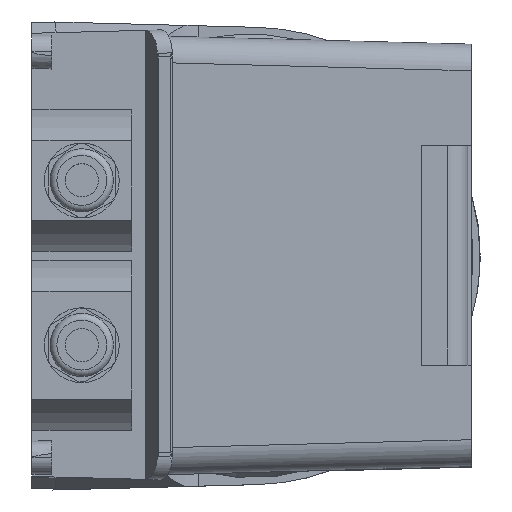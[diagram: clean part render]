
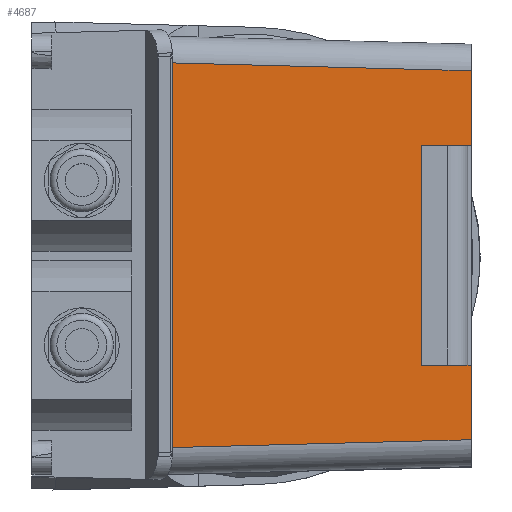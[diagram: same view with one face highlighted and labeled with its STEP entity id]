
A CAD part, top view. The second image highlights one B-rep face of the part: STEP entity #4687.
In plain terms, the highlighted planar face has unit normal (0.009, 0, 1).
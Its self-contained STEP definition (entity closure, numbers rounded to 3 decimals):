
#3955=CARTESIAN_POINT('',(-5.,-55.441,34.576));
#3956=VERTEX_POINT('',#3955);
#3964=CARTESIAN_POINT('',(-94.841,-57.793,35.36));
#3965=VERTEX_POINT('',#3964);
#3966=CARTESIAN_POINT('',(-5.,-55.441,34.576));
#3967=DIRECTION('',(-1.,-0.026,0.009));
#3968=VECTOR('',#3967,89.875);
#3969=LINE('',#3966,#3968);
#3970=EDGE_CURVE('',#3956,#3965,#3969,.T.);
#4476=CARTESIAN_POINT('',(-94.841,57.793,35.36));
#4477=VERTEX_POINT('',#4476);
#4478=CARTESIAN_POINT('',(-94.841,-57.793,35.36));
#4479=DIRECTION('',(0.0,1.0,0.0));
#4480=VECTOR('',#4479,115.587);
#4481=LINE('',#4478,#4480);
#4482=EDGE_CURVE('',#3965,#4477,#4481,.T.);
#4632=CARTESIAN_POINT('',(-5.,63.442,34.576));
#4633=DIRECTION('',(0.009,0.,1.));
#4634=DIRECTION('',(1.,0.0,-0.009));
#4635=AXIS2_PLACEMENT_3D('',#4632,#4633,#4634);
#4636=PLANE('',#4635);
#4637=ORIENTED_EDGE('',*,*,#3970,.F.);
#4638=CARTESIAN_POINT('',(-5.,-33.,34.576));
#4639=VERTEX_POINT('',#4638);
#4640=CARTESIAN_POINT('',(-5.,-33.,34.576));
#4641=DIRECTION('',(0.0,-1.0,0.0));
#4642=VECTOR('',#4641,22.441);
#4643=LINE('',#4640,#4642);
#4644=EDGE_CURVE('',#4639,#3956,#4643,.T.);
#4645=ORIENTED_EDGE('',*,*,#4644,.F.);
#4646=CARTESIAN_POINT('',(-20.,-33.,34.707));
#4647=VERTEX_POINT('',#4646);
#4648=CARTESIAN_POINT('',(-5.,-33.,34.576));
#4649=DIRECTION('',(-1.,0.0,0.009));
#4650=VECTOR('',#4649,15.);
#4651=LINE('',#4648,#4650);
#4652=EDGE_CURVE('',#4639,#4647,#4651,.T.);
#4653=ORIENTED_EDGE('',*,*,#4652,.T.);
#4654=CARTESIAN_POINT('',(-20.,33.,34.707));
#4655=VERTEX_POINT('',#4654);
#4656=CARTESIAN_POINT('',(-20.,-33.,34.707));
#4657=DIRECTION('',(0.0,1.0,0.0));
#4658=VECTOR('',#4657,66.);
#4659=LINE('',#4656,#4658);
#4660=EDGE_CURVE('',#4647,#4655,#4659,.T.);
#4661=ORIENTED_EDGE('',*,*,#4660,.T.);
#4662=CARTESIAN_POINT('',(-5.,33.,34.576));
#4663=VERTEX_POINT('',#4662);
#4664=CARTESIAN_POINT('',(-20.,33.,34.707));
#4665=DIRECTION('',(1.,0.0,-0.009));
#4666=VECTOR('',#4665,15.);
#4667=LINE('',#4664,#4666);
#4668=EDGE_CURVE('',#4655,#4663,#4667,.T.);
#4669=ORIENTED_EDGE('',*,*,#4668,.T.);
#4670=CARTESIAN_POINT('',(-5.,55.441,34.576));
#4671=VERTEX_POINT('',#4670);
#4672=CARTESIAN_POINT('',(-5.,55.441,34.576));
#4673=DIRECTION('',(0.0,-1.0,0.0));
#4674=VECTOR('',#4673,22.441);
#4675=LINE('',#4672,#4674);
#4676=EDGE_CURVE('',#4671,#4663,#4675,.T.);
#4677=ORIENTED_EDGE('',*,*,#4676,.F.);
#4678=CARTESIAN_POINT('',(-94.841,57.793,35.36));
#4679=DIRECTION('',(1.,-0.026,-0.009));
#4680=VECTOR('',#4679,89.875);
#4681=LINE('',#4678,#4680);
#4682=EDGE_CURVE('',#4477,#4671,#4681,.T.);
#4683=ORIENTED_EDGE('',*,*,#4682,.F.);
#4684=ORIENTED_EDGE('',*,*,#4482,.F.);
#4685=EDGE_LOOP('',(#4637,#4645,#4653,#4661,#4669,#4677,#4683,#4684));
#4686=FACE_OUTER_BOUND('',#4685,.T.);
#4687=ADVANCED_FACE('',(#4686),#4636,.T.);
